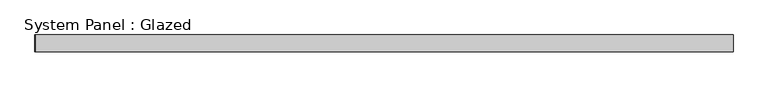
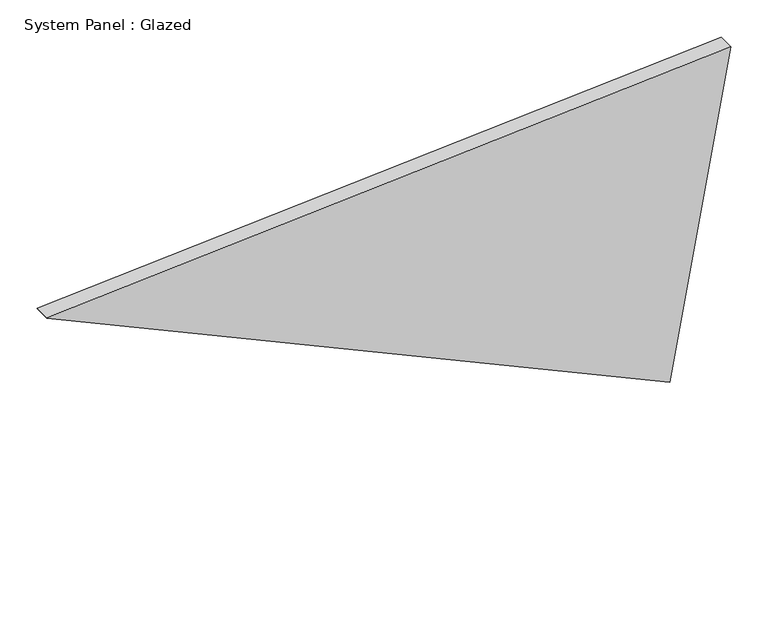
"""IFC4 building model written with IfcOpenShell, lengths in millimetres: plate geometry, System Panel : Glazed."""

import ifcopenshell
import ifcopenshell.guid

model = None  # the IFC model being written
_history = None  # IfcOwnerHistory: only IFC2X3 demands one
_inside = {}  # id of a spatial element -> (the spatial element, [elements in it])
_under = {}  # id of a project, library or spatial element -> (it, [spatial elements below it])
_declared = {}  # id of a project -> (the project, [libraries it declares])
_typed = {}  # id of a type object -> (the type object, [elements of that type])
_made_of = {}  # id of a material, layer set ... -> (it, [elements and type objects made of it])


def new_model(schema):
    """Start an empty IFC model of exactly this schema.

    Asked for "IFC4X3", IfcOpenShell would pick the latest addendum, in which some entities
    have other attributes; the version numbers below select the first issue.
    IFC2X3 requires an IfcOwnerHistory on every rooted entity: one is made here for all.
    """
    global model, _history
    if schema == "IFC4X3":
        model = ifcopenshell.file(schema_version=(4, 3, 0, 0))
    else:
        model = ifcopenshell.file(schema=schema)
    _inside.clear()
    _under.clear()
    _declared.clear()
    _typed.clear()
    _made_of.clear()
    _history = None
    if model.schema == "IFC2X3":
        org = make("IfcOrganization", Name="unknown")
        user = make(
            "IfcPersonAndOrganization",
            ThePerson=make("IfcPerson", FamilyName="unknown"),
            TheOrganization=org,
        )
        app = make(
            "IfcApplication",
            ApplicationDeveloper=org,
            Version="unknown",
            ApplicationFullName="unknown",
            ApplicationIdentifier="unknown",
        )
        _history = make(
            "IfcOwnerHistory",
            OwningUser=user,
            OwningApplication=app,
            ChangeAction="ADDED",
            CreationDate=0,
        )
    return model


def make(cls, **values):
    """One entity of the class cls with the attributes given. An attribute that is None is left unset."""
    return model.create_entity(
        cls, **{name: value for name, value in values.items() if value is not None}
    )


def rooted(cls, **values):
    """An entity with a GlobalId (a new one), such as an element, a storey or a relation."""
    return make(cls, GlobalId=ifcopenshell.guid.new(), OwnerHistory=_history, **values)


def si_unit(unit_type, name, prefix=None):
    """IfcSIUnit, for example si_unit("LENGTHUNIT", "METRE", prefix="MILLI")."""
    return make("IfcSIUnit", UnitType=unit_type, Prefix=prefix, Name=name)


def assignment(units):
    """IfcUnitAssignment: the units of a project."""
    return None if units is None else make("IfcUnitAssignment", Units=units)


def point(xyz):
    """IfcCartesianPoint."""
    return None if xyz is None else make("IfcCartesianPoint", Coordinates=xyz)


def direction(xyz):
    """IfcDirection."""
    return None if xyz is None else make("IfcDirection", DirectionRatios=xyz)


def frame(location, z_axis=None, x_axis=None):
    """IfcAxis2Placement3D, a coordinate frame: its origin and axes. An axis left out is left unset."""
    return make(
        "IfcAxis2Placement3D",
        Location=point(location),
        Axis=direction(z_axis),
        RefDirection=direction(x_axis),
    )


def origin():
    """The frame at (0, 0, 0) with its axes left unset."""
    return frame((0.0, 0.0, 0.0))


def place(relative_to, where):
    """IfcLocalPlacement: puts the frame where relative to a parent placement (None: the world)."""
    return make(
        "IfcLocalPlacement", PlacementRelTo=relative_to, RelativePlacement=where
    )


def context(
    kind, dimensions, precision=None, world=None, true_north=None, identifier=None
):
    """IfcGeometricRepresentationContext, for example the 3D "Model" context."""
    return make(
        "IfcGeometricRepresentationContext",
        ContextIdentifier=identifier,
        ContextType=kind,
        CoordinateSpaceDimension=dimensions,
        Precision=precision,
        WorldCoordinateSystem=world,
        TrueNorth=true_north,
    )


def project(units=None, contexts=None):
    """IfcProject with its units and contexts."""
    return rooted(
        "IfcProject",
        Name="project",
        RepresentationContexts=contexts,
        UnitsInContext=assignment(units),
    )


def spatial(cls, under=None, at=None, **own):
    """A site, building, storey or space (cls), placed at a placement, below another one or the project."""
    s = rooted(cls, ObjectPlacement=at, **own)
    if under is not None:
        _under.setdefault(under.id(), (under, []))[1].append(s)
    return s


def polyline(points):
    """IfcPolyline through the points."""
    return make("IfcPolyline", Points=[point(p) for p in points])


def outline(outer, holes=None, kind="AREA"):
    """IfcArbitraryClosedProfileDef: a profile drawn as a closed curve; with holes, ...WithVoids."""
    if holes is None:
        return make("IfcArbitraryClosedProfileDef", ProfileType=kind, OuterCurve=outer)
    return make(
        "IfcArbitraryProfileDefWithVoids",
        ProfileType=kind,
        OuterCurve=outer,
        InnerCurves=holes,
    )


def extrude(swept, where, along, depth):
    """IfcExtrudedAreaSolid: the profile swept, set in the frame where, extruded along a direction by depth."""
    return make(
        "IfcExtrudedAreaSolid",
        SweptArea=swept,
        Position=where,
        ExtrudedDirection=direction(along),
        Depth=depth,
    )


def shape(context_of_items, identifier, shape_type, items):
    """IfcShapeRepresentation: the items that make up one representation, for example the "Body"."""
    return make(
        "IfcShapeRepresentation",
        ContextOfItems=context_of_items,
        RepresentationIdentifier=identifier,
        RepresentationType=shape_type,
        Items=items,
    )


def source(mapping_origin, context_of_items, identifier, shape_type, items):
    """IfcRepresentationMap: a shape defined once, which mapped items show again and again."""
    return make(
        "IfcRepresentationMap",
        MappingOrigin=mapping_origin,
        MappedRepresentation=shape(context_of_items, identifier, shape_type, items),
    )


def transform(
    local_origin,
    x_axis=None,
    y_axis=None,
    z_axis=None,
    scale=None,
    scale2=None,
    scale3=None,
    uniform=True,
):
    """IfcCartesianTransformationOperator3D, or its non-uniform kind. x_axis, y_axis, z_axis: its Axis1, 2, 3."""
    if uniform:
        return make(
            "IfcCartesianTransformationOperator3D",
            Axis1=direction(x_axis),
            Axis2=direction(y_axis),
            LocalOrigin=point(local_origin),
            Scale=scale,
            Axis3=direction(z_axis),
        )
    return make(
        "IfcCartesianTransformationOperator3DnonUniform",
        Axis1=direction(x_axis),
        Axis2=direction(y_axis),
        LocalOrigin=point(local_origin),
        Scale=scale,
        Axis3=direction(z_axis),
        Scale2=scale2,
        Scale3=scale3,
    )


def mapped(mapping_source, mapping_target):
    """IfcMappedItem: shows the shape of a source again, moved by a transform."""
    return make(
        "IfcMappedItem", MappingSource=mapping_source, MappingTarget=mapping_target
    )


def made_of(thing, what):
    """Note that an element or type object is made of a material, layer set ...; save() writes the relation."""
    if what is not None:
        _made_of.setdefault(what.id(), (what, []))[1].append(thing)
    return thing


def element(
    cls,
    number,
    at=None,
    inside=None,
    cuts=None,
    type_object=None,
    material=None,
    context=None,
    identifier="Body",
    shape_type=None,
    held_by="IfcProductDefinitionShape",
    body=None,
    shapes=None,
    **own,
):
    """One element of the class cls, such as IfcWall. Its Tag is "e" and its number.

    at: its placement. inside: the storey or other place that contains it. cuts: it is an
    opening in that element (IfcRelVoidsElement). A single representation is given by context,
    identifier, shape_type and body (its items); several are given by shapes. held_by: the class
    of the entity that holds the representations. save() writes the other relations.
    """
    e = rooted(cls, Tag="e%d" % number, ObjectPlacement=at, **own)
    if body is not None:
        shapes = [shape(context, identifier, shape_type, body)]
    if shapes is not None:
        e.Representation = make(held_by, Representations=shapes)
    if inside is not None:
        _inside.setdefault(inside.id(), (inside, []))[1].append(e)
    if cuts is not None:
        rooted(
            "IfcRelVoidsElement", RelatingBuildingElement=cuts, RelatedOpeningElement=e
        )
    if type_object is not None:
        _typed.setdefault(type_object.id(), (type_object, []))[1].append(e)
    return made_of(e, material)


def aggregate(whole, parts):
    """IfcRelAggregates: a whole, such as a stair, and the parts it consists of."""
    return rooted("IfcRelAggregates", RelatingObject=whole, RelatedObjects=parts)


def save(model, path):
    """Write the relations noted so far, then the file.

    IfcRelAggregates (storeys below a building ...), IfcRelContainedInSpatialStructure (elements
    in a storey), IfcRelDefinesByType, IfcRelAssociatesMaterial and IfcRelDeclares: one each for
    every whole, place, type object, material and project.
    """
    for whole, parts in _under.values():
        aggregate(whole, parts)
    for where, things in _inside.values():
        rooted(
            "IfcRelContainedInSpatialStructure",
            RelatedElements=things,
            RelatingStructure=where,
        )
    for kind, things in _typed.values():
        rooted("IfcRelDefinesByType", RelatedObjects=things, RelatingType=kind)
    for what, things in _made_of.values():
        rooted("IfcRelAssociatesMaterial", RelatedObjects=things, RelatingMaterial=what)
    for by, libraries in _declared.values():
        rooted("IfcRelDeclares", RelatingContext=by, RelatedDefinitions=libraries)
    model.write(path)


def system_panel_glazed_4963176a(model_context):
    return source(origin(), model_context, "Body", "SweptSolid", [
        extrude(outline(polyline([(443.3046642, -530.9970505), (0.0, 436.5518941), (517.4655597, 530.9970505), (444.5414688, -530.7713152), (443.3046642, -530.9970505)])), frame((0.0, -44.45, 0.0), z_axis=(0.0, 1.0, 0.0), x_axis=(0.0, 0.0, 1.0)), (0.0, 0.0, 1.0), 25.4),
    ])


if __name__ == "__main__":
    model = new_model("IFC4")
    model_context = context("Model", 3, world=origin())
    ifc_project = project(units=[si_unit("LENGTHUNIT", "METRE", prefix="MILLI")], contexts=[model_context])
    site = spatial("IfcSite", under=ifc_project)
    building = spatial("IfcBuilding", under=site)
    placement = place(None, origin())
    system_panel_glazed_shape = system_panel_glazed_4963176a(model_context)
    element("IfcPlate", 1, ObjectType="System Panel : Glazed", at=placement, inside=building, context=model_context, shape_type="MappedRepresentation", body=[
        mapped(system_panel_glazed_shape, transform((0.0, 0.0, 0.0), x_axis=(1.0, 0.0, 0.0), y_axis=(0.0, 1.0, 0.0), z_axis=(0.0, 0.0, 1.0))),
    ])
    save(model, "model.ifc")
